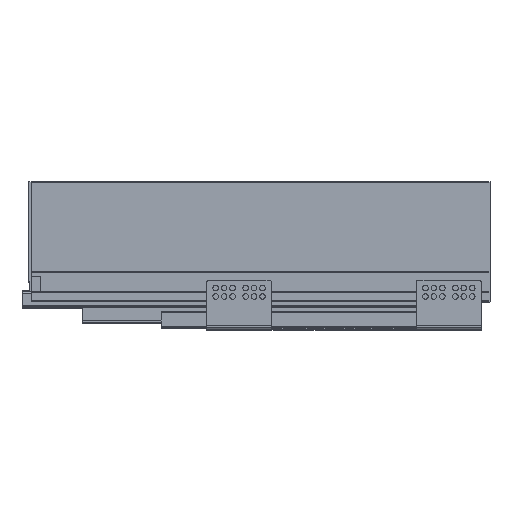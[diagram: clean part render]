
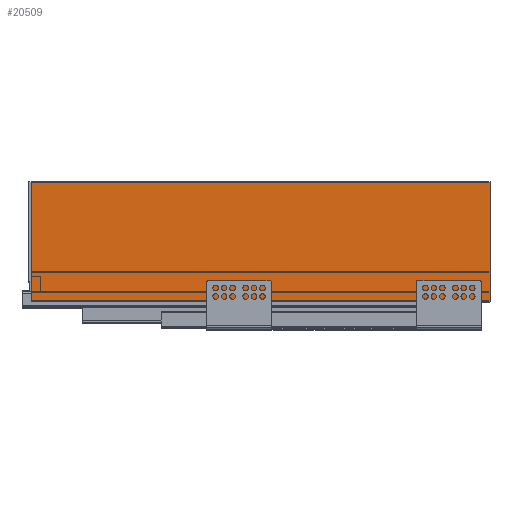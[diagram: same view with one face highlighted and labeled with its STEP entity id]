
A CAD part, top view. The second image highlights one B-rep face of the part: STEP entity #20509.
In plain terms, the highlighted planar face has unit normal (0, 0, 1).
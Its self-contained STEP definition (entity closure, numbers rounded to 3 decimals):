
#503=PLANE('',#21734);
#1360=FACE_OUTER_BOUND('',#2485,.T.);
#2485=EDGE_LOOP('',(#14367,#14368,#14369,#14370));
#4007=LINE('',#29531,#6352);
#4009=LINE('',#29535,#6354);
#4010=LINE('',#29537,#6355);
#4011=LINE('',#29538,#6356);
#6352=VECTOR('',#23817,10.);
#6354=VECTOR('',#23821,10.);
#6355=VECTOR('',#23822,10.);
#6356=VECTOR('',#23823,10.);
#9174=VERTEX_POINT('',#29528);
#9175=VERTEX_POINT('',#29530);
#9176=VERTEX_POINT('',#29534);
#9177=VERTEX_POINT('',#29536);
#11231=EDGE_CURVE('',#9174,#9175,#4007,.T.);
#11233=EDGE_CURVE('',#9174,#9176,#4009,.T.);
#11234=EDGE_CURVE('',#9176,#9177,#4010,.T.);
#11235=EDGE_CURVE('',#9177,#9175,#4011,.T.);
#14367=ORIENTED_EDGE('',*,*,#11233,.T.);
#14368=ORIENTED_EDGE('',*,*,#11234,.T.);
#14369=ORIENTED_EDGE('',*,*,#11235,.T.);
#14370=ORIENTED_EDGE('',*,*,#11231,.F.);
#20509=ADVANCED_FACE('',(#1360),#503,.F.);
#21734=AXIS2_PLACEMENT_3D('',#29533,#23819,#23820);
#23817=DIRECTION('',(1.,0.,0.));
#23819=DIRECTION('center_axis',(0.,0.,-1.));
#23820=DIRECTION('ref_axis',(0.,1.,0.));
#23821=DIRECTION('',(0.,-1.,0.));
#23822=DIRECTION('',(1.,0.,0.));
#23823=DIRECTION('',(0.,1.,0.));
#29528=CARTESIAN_POINT('',(0.,128.,535.));
#29530=CARTESIAN_POINT('',(490.,128.,535.));
#29531=CARTESIAN_POINT('',(0.,128.,535.));
#29533=CARTESIAN_POINT('Origin',(0.,0.,535.));
#29534=CARTESIAN_POINT('',(0.,0.,535.));
#29535=CARTESIAN_POINT('',(0.,128.,535.));
#29536=CARTESIAN_POINT('',(490.,0.,535.));
#29537=CARTESIAN_POINT('',(0.,0.,535.));
#29538=CARTESIAN_POINT('',(490.,128.,535.));
